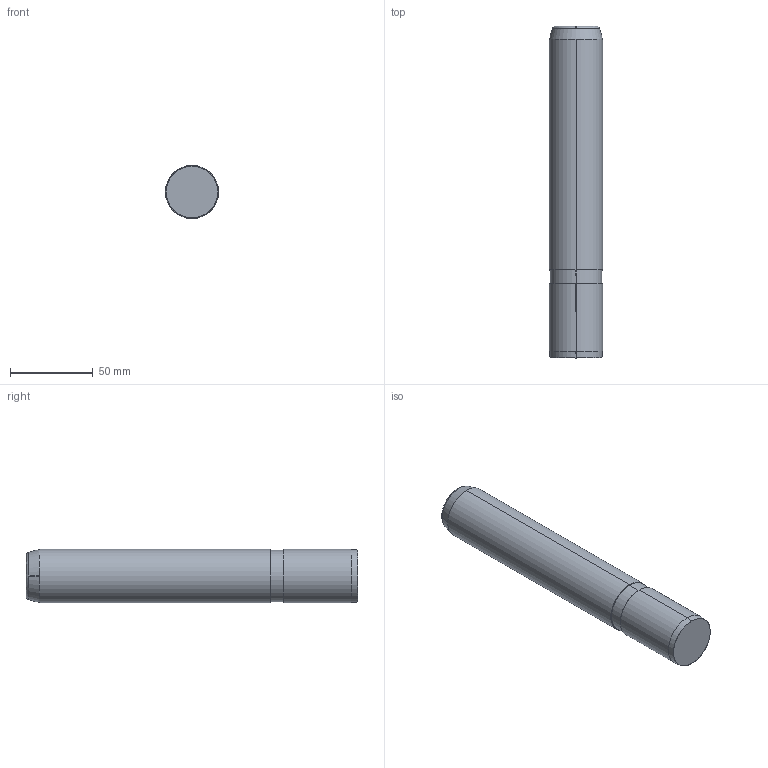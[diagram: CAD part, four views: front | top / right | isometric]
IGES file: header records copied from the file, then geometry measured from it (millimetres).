
Start section: SolidWorks IGES file using analytic representation for surfaces
Global section: file name: C:\Users\Dell\Desktop\deltakont\hatalýlar\D13.02\Ø32\D13.02_32200.igs; native system: SolidWorks 2010; preprocessor: SolidWorks 2010; author: Dell; date: 111225.193043; units: millimetre
Bounding box: 32 x 200 x 32 mm (x, y, z)
Surface area: 21482 mm2 (no closed solid volume)
Topology: 0 solids, 0 shells, 16 faces, 410 edges, 410 vertices
Faces by surface type: revolution 10, bspline 6
